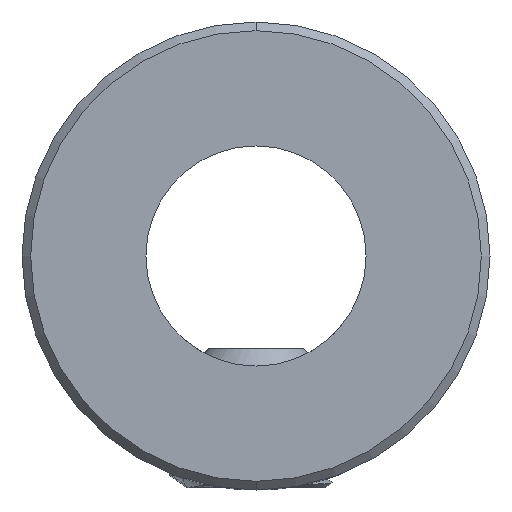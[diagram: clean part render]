
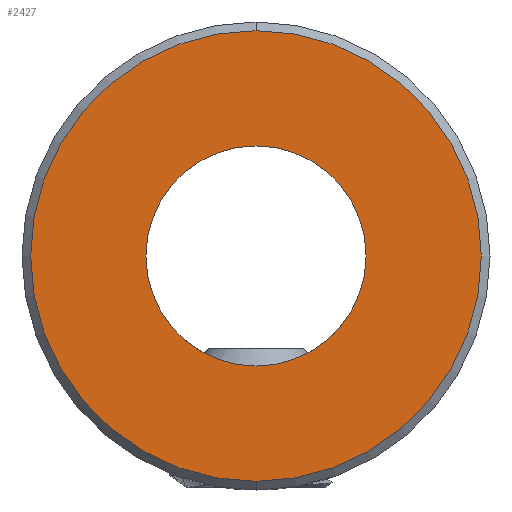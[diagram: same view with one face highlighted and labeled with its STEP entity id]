
A CAD part, front view. The second image highlights one B-rep face of the part: STEP entity #2427.
In plain terms, the highlighted planar face has unit normal (0, -1, 0).
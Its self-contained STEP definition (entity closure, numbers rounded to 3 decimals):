
#18 = CARTESIAN_POINT ( 'NONE',  ( 0., -4., 0. ) ) ;
#38 = PLANE ( 'NONE',  #4553 ) ;
#271 = DIRECTION ( 'NONE',  ( 0., 0., 1. ) ) ;
#479 = EDGE_CURVE ( 'NONE', #666, #2174, #1414, .T. ) ;
#666 = VERTEX_POINT ( 'NONE', #3676 ) ;
#678 = VERTEX_POINT ( 'NONE', #3061 ) ;
#850 = AXIS2_PLACEMENT_3D ( 'NONE', #3640, #5754, #3699 ) ;
#994 = DIRECTION ( 'NONE',  ( 0., 0., 1. ) ) ;
#1142 = EDGE_CURVE ( 'NONE', #678, #5364, #5243, .T. ) ;
#1243 = CARTESIAN_POINT ( 'NONE',  ( 0., -4., 6.5 ) ) ;
#1414 = CIRCLE ( 'NONE', #4177, 6.5 ) ;
#1475 = DIRECTION ( 'NONE',  ( 0., -1., 0. ) ) ;
#1646 = EDGE_CURVE ( 'NONE', #5364, #678, #2493, .T. ) ;
#2174 = VERTEX_POINT ( 'NONE', #1243 ) ;
#2245 = CIRCLE ( 'NONE', #850, 6.5 ) ;
#2354 = CARTESIAN_POINT ( 'NONE',  ( 0., -4., 0. ) ) ;
#2427 = ADVANCED_FACE ( 'NONE', ( #2731, #3942 ), #38, .F. ) ;
#2493 = CIRCLE ( 'NONE', #3301, 3.175 ) ;
#2571 = ORIENTED_EDGE ( 'NONE', *, *, #479, .T. ) ;
#2731 = FACE_BOUND ( 'NONE', #5161, .T. ) ;
#2773 = DIRECTION ( 'NONE',  ( 0., 0., 1. ) ) ;
#2843 = DIRECTION ( 'NONE',  ( 0., 1., 0. ) ) ;
#3061 = CARTESIAN_POINT ( 'NONE',  ( 0., -4., -3.175 ) ) ;
#3116 = EDGE_LOOP ( 'NONE', ( #4253, #2571 ) ) ;
#3301 = AXIS2_PLACEMENT_3D ( 'NONE', #5284, #5798, #2773 ) ;
#3640 = CARTESIAN_POINT ( 'NONE',  ( 0., -4., 0. ) ) ;
#3676 = CARTESIAN_POINT ( 'NONE',  ( 0., -4., -6.5 ) ) ;
#3699 = DIRECTION ( 'NONE',  ( 0., 0., 1. ) ) ;
#3942 = FACE_OUTER_BOUND ( 'NONE', #3116, .T. ) ;
#4177 = AXIS2_PLACEMENT_3D ( 'NONE', #6669, #1475, #994 ) ;
#4183 = EDGE_CURVE ( 'NONE', #2174, #666, #2245, .T. ) ;
#4253 = ORIENTED_EDGE ( 'NONE', *, *, #4183, .T. ) ;
#4263 = CARTESIAN_POINT ( 'NONE',  ( 0., -4., 3.175 ) ) ;
#4553 = AXIS2_PLACEMENT_3D ( 'NONE', #18, #4693, #5248 ) ;
#4693 = DIRECTION ( 'NONE',  ( 0., 1., 0. ) ) ;
#5161 = EDGE_LOOP ( 'NONE', ( #6019, #5379 ) ) ;
#5243 = CIRCLE ( 'NONE', #6003, 3.175 ) ;
#5248 = DIRECTION ( 'NONE',  ( 0., 0., 1. ) ) ;
#5284 = CARTESIAN_POINT ( 'NONE',  ( 0., -4., 0. ) ) ;
#5364 = VERTEX_POINT ( 'NONE', #4263 ) ;
#5379 = ORIENTED_EDGE ( 'NONE', *, *, #1142, .T. ) ;
#5754 = DIRECTION ( 'NONE',  ( 0., -1., 0. ) ) ;
#5798 = DIRECTION ( 'NONE',  ( 0., 1., 0. ) ) ;
#6003 = AXIS2_PLACEMENT_3D ( 'NONE', #2354, #2843, #271 ) ;
#6019 = ORIENTED_EDGE ( 'NONE', *, *, #1646, .T. ) ;
#6669 = CARTESIAN_POINT ( 'NONE',  ( 0., -4., 0. ) ) ;
